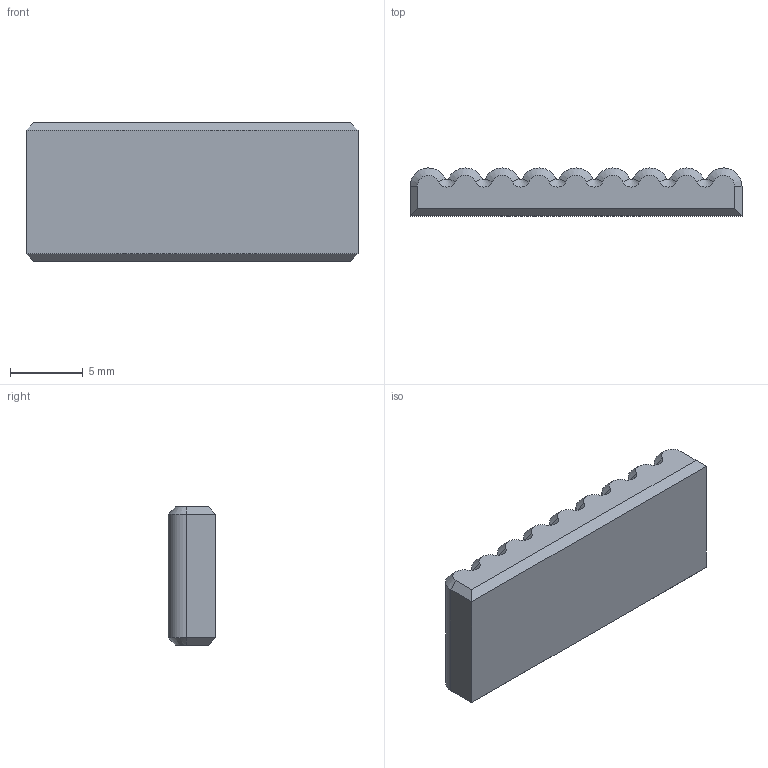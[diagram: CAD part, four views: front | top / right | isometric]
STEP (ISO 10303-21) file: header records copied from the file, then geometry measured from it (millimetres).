
FILE_DESCRIPTION(/* description */ ('STEP AP242','CAx-IF Rec.Pracs.---Representation and Presentation of Product Manufacturing Information (PMI)---4.0---2014-10-13','CAx-IF Rec.Pracs.---3D Tessellated Geometry---0.4---2014-09-14','2;1'),/* implementation_level */ '2;1');
FILE_NAME(/* name */ '6367aa070f60637f9a1aeefa',/* time_stamp */ '2022-11-06T12:35:19+00:00',/* author */ (''),/* organization */ (''),/* preprocessor_version */ 'ST-DEVELOPER v18.102',/* originating_system */ ' ',/* authorisation */ ' ');
FILE_SCHEMA (('AP242_MANAGED_MODEL_BASED_3D_ENGINEERING_MIM_LF { 1 0 10303 442 1 1 4 }'));
Length unit declared in the file: metre
Products named in the file (1): Finger Pad
Bounding box: 22.86 x 3.3 x 9.53 mm (x, y, z)
Volume: 647.5 mm3; surface area: 642 mm2
Topology: 1 solids, 1 shells, 62 faces, 140 edges, 80 vertices
Faces by surface type: cone 34, cylinder 17, plane 11
Entity records: 1734 total; most frequent: DIRECTION 334, CARTESIAN_POINT 283, ORIENTED_EDGE 280, EDGE_CURVE 140, AXIS2_PLACEMENT_3D 131, VERTEX_POINT 80, LINE 72, VECTOR 72
